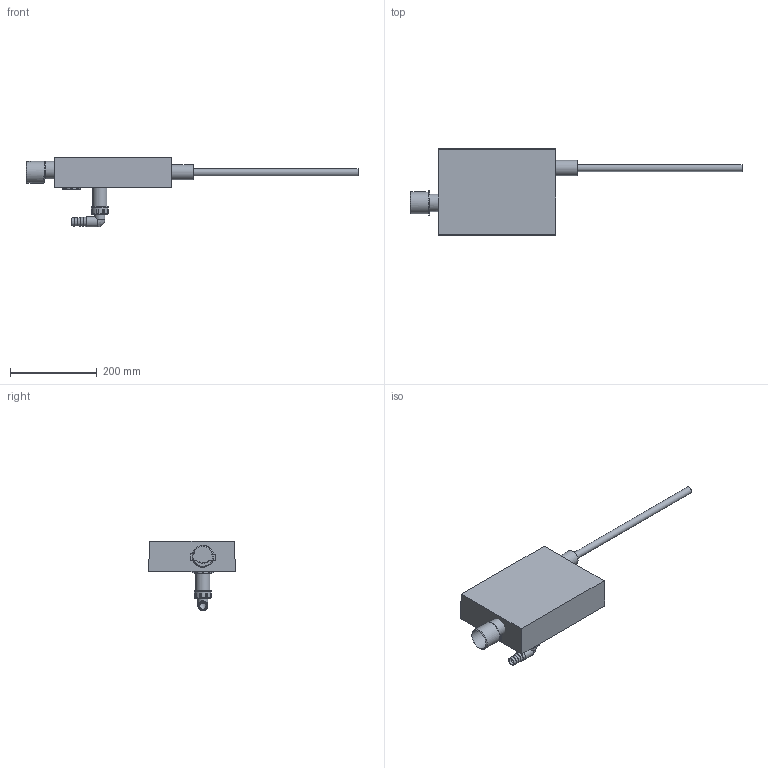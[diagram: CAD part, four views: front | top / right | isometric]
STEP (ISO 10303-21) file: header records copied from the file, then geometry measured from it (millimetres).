
FILE_DESCRIPTION(/* description */ (''),/* implementation_level */ '2;1');
FILE_NAME(/* name */ '\\LG50011\SANHA_Legnica\Engineering\Public\PROJEKTY\SANHA-BOX_Support_BiR\002-Rysunki_Boxów\325WMMO16\Zespół325WMMO16.stp',/* time_stamp */ '2018-11-05T14:36:19+01:00',/* author */ ('gomulka'),/* organization */ (''),/* preprocessor_version */ 'ST-DEVELOPER v16.13',/* originating_system */ 'Autodesk Inventor 2018',/* authorisation */ '');
FILE_SCHEMA (('AUTOMOTIVE_DESIGN { 1 0 10303 214 3 1 1 }'));
Length unit declared in the file: millimetre
Products named in the file (8): Zespół325WMMO16; 325WMMO16; Rura_16x2; króciec-mimośr; nakrętka_2; króciec-gwintowany; króciec; nakrętka
Assembly tree (7 placements, depth 2):
  Zespół325WMMO16
    325WMMO16
    Rura_16x2
    króciec-mimośr
    nakrętka_2
    króciec-gwintowany
    króciec
    nakrętka
Bounding box: 763.73 x 200 x 160.45 mm (x, y, z)
Volume: 3842899.4 mm3; surface area: 295508.7 mm2
Topology: 7 solids, 7 shells, 326 faces, 767 edges, 478 vertices
Faces by surface type: plane 247, cylinder 44, bspline 18, torus 10, cone 7
Full cylindrical faces by diameter (mm): 10.28 x1, 14 x1, 15 x1, 16 x2, 18.3 x2, 18.631 x1, 21 x1, 23 x2, 27 x2, 27.5 x1, 30 x2, 32.8 x1, 33 x1, 35 x1, 37.5 x2, 38.5 x1, 40 x2, 46 x1, 50 x1, 53 x1, 63 x1
Entity records: 9450 total; most frequent: CARTESIAN_POINT 1827, DIRECTION 1520, ORIENTED_EDGE 1458, EDGE_CURVE 713, AXIS2_PLACEMENT_3D 522, LINE 476, VECTOR 476, VERTEX_POINT 469
